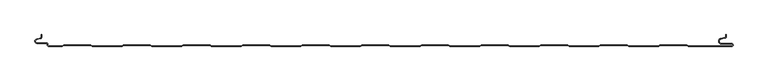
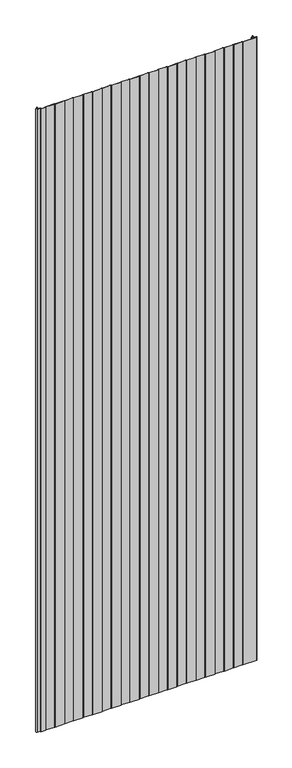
"""IFC4 building model written with IfcOpenShell, lengths in millimetres: plate geometry, PM1_Curtain-Panel_Perfil-Estándar : ACH_PM1_Panel-Acústico-Sectorización_150M."""

from ifc_helpers import new_model, si_unit, frame, origin, place, context, project, spatial, polyline, circle_curve, source, transform, mapped, element, save
from ifc_brep_helpers import plane_surface, cylinder_surface, revolved_surface, advanced_brep


def plate_b681ec22(model_context):
    return source(origin(), model_context, "Body", "AdvancedBrep", [
        advanced_brep(
        [(-562.4, -150.0, 3500.0), (-539.3999999, -150.0, 3500.0), (-536.8019223, -148.5, 3500.0), (-492.0019247, -148.5, 3500.0), (-489.4038471, -150.0, 3500.0), (-439.3999999, -150.0, 3500.0), (-436.8019223, -148.5, 3500.0), (-392.0019247, -148.5, 3500.0), (-389.4038471, -150.0, 3500.0), (-339.3999999, -150.0, 3500.0), (-336.8019223, -148.5, 3500.0), (-292.0019247, -148.5, 3500.0), (-289.4038471, -150.0, 3500.0), (-239.3999999, -150.0, 3500.0), (-236.8019223, -148.5, 3500.0), (-192.0019247, -148.5, 3500.0), (-189.4038471, -150.0, 3500.0), (-139.3999999, -150.0, 3500.0), (-136.8019223, -148.5, 3500.0), (-92.0019247, -148.5, 3500.0), (-89.4038471, -150.0, 3500.0), (-39.3999999, -150.0, 3500.0), (-36.8019223, -148.5, 3500.0), (7.9980753, -148.5, 3500.0), (10.5961529, -150.0, 3500.0), (60.6000001, -150.0, 3500.0), (63.1980777, -148.5, 3500.0), (107.9980753, -148.5, 3500.0), (110.5961529, -150.0, 3500.0), (160.6000001, -150.0, 3500.0), (163.1980777, -148.5, 3500.0), (207.9980753, -148.5, 3500.0), (210.5961529, -150.0, 3500.0), (260.6000001, -150.0, 3500.0), (263.1980777, -148.5, 3500.0), (307.9980753, -148.5, 3500.0), (310.5961529, -150.0, 3500.0), (360.6000001, -150.0, 3500.0), (363.1980777, -148.5, 3500.0), (407.9980753, -148.5, 3500.0), (410.5961529, -150.0, 3500.0), (460.6000001, -150.0, 3500.0), (463.1980777, -148.5, 3500.0), (507.9980753, -148.5, 3500.0), (510.5961529, -150.0, 3500.0), (583.1, -150.0, 3500.0), (585.6, -147.5, 3500.0), (583.1, -145.0, 3500.0), (566.1, -145.0, 3500.0), (565.4054075, -137.060769, 3500.0), (571.8514851, -135.924152, 3500.0), (574.0, -133.363652, 3500.0), (574.0, -130.0, 3500.0), (573.2, -130.0, 3500.0), (573.2, -133.363652, 3500.0), (571.7125666, -135.136306, 3500.0), (565.266489, -136.2729229, 3500.0), (566.1, -145.8, 3500.0), (583.1, -145.8, 3500.0), (583.1, -149.2, 3500.0), (510.8105122, -149.2, 3500.0), (508.2124346, -147.7, 3500.0), (462.9837184, -147.7, 3500.0), (460.3856408, -149.2, 3500.0), (410.8105122, -149.2, 3500.0), (408.2124346, -147.7, 3500.0), (362.9837184, -147.7, 3500.0), (360.3856408, -149.2, 3500.0), (310.8105122, -149.2, 3500.0), (308.2124346, -147.7, 3500.0), (262.9837184, -147.7, 3500.0), (260.3856408, -149.2, 3500.0), (210.8105122, -149.2, 3500.0), (208.2124346, -147.7, 3500.0), (162.9837184, -147.7, 3500.0), (160.3856408, -149.2, 3500.0), (110.8105122, -149.2, 3500.0), (108.2124346, -147.7, 3500.0), (62.9837184, -147.7, 3500.0), (60.3856408, -149.2, 3500.0), (10.8105122, -149.2, 3500.0), (8.2124346, -147.7, 3500.0), (-37.0162816, -147.7, 3500.0), (-39.6143592, -149.2, 3500.0), (-89.1894878, -149.2, 3500.0), (-91.7875654, -147.7, 3500.0), (-137.0162816, -147.7, 3500.0), (-139.6143592, -149.2, 3500.0), (-189.1894878, -149.2, 3500.0), (-191.7875654, -147.7, 3500.0), (-237.0162816, -147.7, 3500.0), (-239.6143592, -149.2, 3500.0), (-289.1894878, -149.2, 3500.0), (-291.7875654, -147.7, 3500.0), (-337.0162816, -147.7, 3500.0), (-339.6143592, -149.2, 3500.0), (-389.1894878, -149.2, 3500.0), (-391.7875654, -147.7, 3500.0), (-437.0162816, -147.7, 3500.0), (-439.6143592, -149.2, 3500.0), (-489.1894878, -149.2, 3500.0), (-491.7875654, -147.7, 3500.0), (-537.0162816, -147.7, 3500.0), (-539.6143592, -149.2, 3500.0), (-562.4, -149.2, 3500.0), (-563.6, -148.0, 3500.0), (-563.6, -146.6, 3500.0), (-566.4, -143.8, 3500.0), (-581.9, -143.8, 3500.0), (-582.529863, -138.2717638, 3500.0), (-576.370137, -136.849679, 3500.0), (-574.2, -134.121443, 3500.0), (-574.2, -130.0, 3500.0), (-575.0, -130.0, 3500.0), (-575.0, -134.121443, 3500.0), (-576.5500978, -136.0701831, 3500.0), (-582.7098239, -137.492268, 3500.0), (-581.9, -144.6, 3500.0), (-566.4, -144.6, 3500.0), (-564.4, -146.6, 3500.0), (-564.4, -148.0, 3500.0), (-562.4, -150.0, 0.0), (-564.4, -148.0, 0.0), (-564.4, -146.6, 0.0), (-566.4, -144.6, 0.0), (-581.9, -144.6, 0.0), (-582.7098239, -137.4922678, 0.0), (-576.5500979, -136.070183, 0.0), (-575.0, -134.121443, 0.0), (-575.0, -130.0, 0.0), (-574.2, -130.0, 0.0), (-574.2, -134.121443, 0.0), (-576.370137, -136.8496792, 0.0), (-582.529863, -138.271764, 0.0), (-581.9, -143.8, 0.0), (-566.4, -143.8, 0.0), (-563.6, -146.6, 0.0), (-563.6, -148.0, 0.0), (-562.4, -149.2, 0.0), (-539.6143592, -149.2, 0.0), (-537.0162816, -147.7, 0.0), (-491.7875654, -147.7, 0.0), (-489.1894878, -149.2, 0.0), (-439.6143592, -149.2, 0.0), (-437.0162816, -147.7, 0.0), (-391.7875654, -147.7, 0.0), (-389.1894878, -149.2, 0.0), (-339.6143592, -149.2, 0.0), (-337.0162816, -147.7, 0.0), (-291.7875654, -147.7, 0.0), (-289.1894878, -149.2, 0.0), (-239.6143592, -149.2, 0.0), (-237.0162816, -147.7, 0.0), (-191.7875654, -147.7, 0.0), (-189.1894878, -149.2, 0.0), (-139.6143592, -149.2, 0.0), (-137.0162816, -147.7, 0.0), (-91.7875654, -147.7, 0.0), (-89.1894878, -149.2, 0.0), (-39.6143592, -149.2, 0.0), (-37.0162816, -147.7, 0.0), (8.2124346, -147.7, 0.0), (10.8105122, -149.2, 0.0), (60.3856408, -149.2, 0.0), (62.9837184, -147.7, 0.0), (108.2124346, -147.7, 0.0), (110.8105122, -149.2, 0.0), (160.3856408, -149.2, 0.0), (162.9837184, -147.7, 0.0), (208.2124346, -147.7, 0.0), (210.8105122, -149.2, 0.0), (260.3856408, -149.2, 0.0), (262.9837184, -147.7, 0.0), (308.2124346, -147.7, 0.0), (310.8105122, -149.2, 0.0), (360.3856408, -149.2, 0.0), (362.9837184, -147.7, 0.0), (408.2124346, -147.7, 0.0), (410.8105122, -149.2, 0.0), (460.3856408, -149.2, 0.0), (462.9837184, -147.7, 0.0), (508.2124346, -147.7, 0.0), (510.8105122, -149.2, 0.0), (583.1, -149.2, 0.0), (583.1, -145.8, 0.0), (566.1, -145.8, 0.0), (565.266489, -136.2729227, 0.0), (571.7125666, -135.1363058, 0.0), (573.2, -133.363652, 0.0), (573.2, -130.0, 0.0), (574.0, -130.0, 0.0), (574.0, -133.363652, 0.0), (571.8514851, -135.9241522, 0.0), (565.4054075, -137.0607691, 0.0), (566.1, -145.0, 0.0), (583.1, -145.0, 0.0), (585.6, -147.5, 0.0), (583.1, -150.0, 0.0), (510.5961529, -150.0, 0.0), (507.9980753, -148.5, 0.0), (463.1980777, -148.5, 0.0), (460.6000001, -150.0, 0.0), (410.5961529, -150.0, 0.0), (407.9980753, -148.5, 0.0), (363.1980777, -148.5, 0.0), (360.6000001, -150.0, 0.0), (310.5961529, -150.0, 0.0), (307.9980753, -148.5, 0.0), (263.1980777, -148.5, 0.0), (260.6000001, -150.0, 0.0), (210.5961529, -150.0, 0.0), (207.9980753, -148.5, 0.0), (163.1980777, -148.5, 0.0), (160.6000001, -150.0, 0.0), (110.5961529, -150.0, 0.0), (107.9980753, -148.5, 0.0), (63.1980777, -148.5, 0.0), (60.6000001, -150.0, 0.0), (10.5961529, -150.0, 0.0), (7.9980753, -148.5, 0.0), (-36.8019223, -148.5, 0.0), (-39.3999999, -150.0, 0.0), (-89.4038471, -150.0, 0.0), (-92.0019247, -148.5, 0.0), (-136.8019223, -148.5, 0.0), (-139.3999999, -150.0, 0.0), (-189.4038471, -150.0, 0.0), (-192.0019247, -148.5, 0.0), (-236.8019223, -148.5, 0.0), (-239.3999999, -150.0, 0.0), (-289.4038471, -150.0, 0.0), (-292.0019247, -148.5, 0.0), (-336.8019223, -148.5, 0.0), (-339.3999999, -150.0, 0.0), (-389.4038471, -150.0, 0.0), (-392.0019247, -148.5, 0.0), (-436.8019223, -148.5, 0.0), (-439.3999999, -150.0, 0.0), (-489.4038471, -150.0, 0.0), (-492.0019247, -148.5, 0.0), (-536.8019223, -148.5, 0.0), (-539.3999999, -150.0, 0.0)],
        [
            (0, 1),
            (1, 2),
            (2, 3),
            (3, 4),
            (4, 5),
            (5, 6),
            (6, 7),
            (7, 8),
            (8, 9),
            (9, 10),
            (10, 11),
            (11, 12),
            (12, 13),
            (13, 14),
            (14, 15),
            (15, 16),
            (16, 17),
            (17, 18),
            (18, 19),
            (19, 20),
            (20, 21),
            (21, 22),
            (22, 23),
            (23, 24),
            (24, 25),
            (25, 26),
            (26, 27),
            (27, 28),
            (28, 29),
            (29, 30),
            (30, 31),
            (31, 32),
            (32, 33),
            (33, 34),
            (34, 35),
            (35, 36),
            (36, 37),
            (37, 38),
            (38, 39),
            (39, 40),
            (40, 41),
            (41, 42),
            (42, 43),
            (43, 44),
            (44, 45),
            (45, 46, circle_curve(frame((583.1, -147.5, 3500.0), z_axis=(0.0, 0.0, 1.0), x_axis=(1.0, 0.0, 0.0)), 2.5)),
            (46, 47, circle_curve(frame((583.1, -147.5, 3500.0), z_axis=(0.0, 0.0, 1.0), x_axis=(1.0, 0.0, 0.0)), 2.5)),
            (47, 48),
            (48, 49, circle_curve(frame((566.1, -141.0, 3500.0), z_axis=(0.0, 0.0, -1.0), x_axis=(1.0, 0.0, 0.0)), 4.0)),
            (49, 50),
            (50, 51, circle_curve(frame((571.4, -133.363652, 3500.0), z_axis=(0.0, 0.0, 1.0), x_axis=(1.0, 0.0, 0.0)), 2.6)),
            (51, 52),
            (52, 53),
            (53, 54),
            (54, 55, circle_curve(frame((571.4, -133.363652, 3500.0), z_axis=(0.0, 0.0, -1.0), x_axis=(1.0, 0.0, 0.0)), 1.8)),
            (55, 56),
            (56, 57, circle_curve(frame((566.1, -141.0, 3500.0), z_axis=(0.0, 0.0, 1.0), x_axis=(1.0, 0.0, 0.0)), 4.8)),
            (57, 58),
            (58, 59, circle_curve(frame((583.1, -147.5, 3500.0), z_axis=(0.0, 0.0, -1.0), x_axis=(1.0, 0.0, 0.0)), 1.7)),
            (59, 60),
            (60, 61),
            (61, 62),
            (62, 63),
            (63, 64),
            (64, 65),
            (65, 66),
            (66, 67),
            (67, 68),
            (68, 69),
            (69, 70),
            (70, 71),
            (71, 72),
            (72, 73),
            (73, 74),
            (74, 75),
            (75, 76),
            (76, 77),
            (77, 78),
            (78, 79),
            (79, 80),
            (80, 81),
            (81, 82),
            (82, 83),
            (83, 84),
            (84, 85),
            (85, 86),
            (86, 87),
            (87, 88),
            (88, 89),
            (89, 90),
            (90, 91),
            (91, 92),
            (92, 93),
            (93, 94),
            (94, 95),
            (95, 96),
            (96, 97),
            (97, 98),
            (98, 99),
            (99, 100),
            (100, 101),
            (101, 102),
            (102, 103),
            (103, 104),
            (104, 105, circle_curve(frame((-562.4, -148.0, 3500.0), z_axis=(0.0, 0.0, -1.0), x_axis=(1.0, 0.0, 0.0)), 1.2)),
            (105, 106),
            (106, 107, circle_curve(frame((-566.4, -146.6, 3500.0), z_axis=(0.0, 0.0, 1.0), x_axis=(1.0, 0.0, 0.0)), 2.8)),
            (107, 108),
            (108, 109, circle_curve(frame((-581.9, -141.0, 3500.0), z_axis=(0.0, 0.0, -1.0), x_axis=(1.0, 0.0, 0.0)), 2.8)),
            (109, 110),
            (110, 111, circle_curve(frame((-577.0, -134.121443, 3500.0), z_axis=(0.0, 0.0, 1.0), x_axis=(1.0, 0.0, 0.0)), 2.8)),
            (111, 112),
            (112, 113),
            (113, 114),
            (114, 115, circle_curve(frame((-577.0, -134.121443, 3500.0), z_axis=(0.0, 0.0, -1.0), x_axis=(1.0, 0.0, 0.0)), 2.0)),
            (115, 116),
            (116, 117, circle_curve(frame((-581.9, -141.0, 3500.0), z_axis=(0.0, 0.0, 1.0), x_axis=(1.0, 0.0, 0.0)), 3.6)),
            (117, 118),
            (118, 119, circle_curve(frame((-566.4, -146.6, 3500.0), z_axis=(0.0, 0.0, -1.0), x_axis=(1.0, 0.0, 0.0)), 2.0)),
            (119, 120),
            (120, 0, circle_curve(frame((-562.4, -148.0, 3500.0), z_axis=(0.0, 0.0, 1.0), x_axis=(1.0, 0.0, 0.0)), 2.0)),
            (121, 122, circle_curve(frame((-562.4, -148.0, 0.0), z_axis=(0.0, 0.0, -1.0), x_axis=(1.0, 0.0, 0.0)), 2.0)),
            (122, 123),
            (123, 124, circle_curve(frame((-566.4, -146.6, 0.0), z_axis=(0.0, 0.0, 1.0), x_axis=(1.0, 0.0, 0.0)), 2.0)),
            (124, 125),
            (125, 126, circle_curve(frame((-581.9, -141.0, 0.0), z_axis=(0.0, 0.0, -1.0), x_axis=(1.0, 0.0, 0.0)), 3.6)),
            (126, 127),
            (127, 128, circle_curve(frame((-577.0, -134.121443, 0.0), z_axis=(0.0, 0.0, 1.0), x_axis=(1.0, 0.0, 0.0)), 2.0)),
            (128, 129),
            (129, 130),
            (130, 131),
            (131, 132, circle_curve(frame((-577.0, -134.121443, 0.0), z_axis=(0.0, 0.0, -1.0), x_axis=(1.0, 0.0, 0.0)), 2.8)),
            (132, 133),
            (133, 134, circle_curve(frame((-581.9, -141.0, 0.0), z_axis=(0.0, 0.0, 1.0), x_axis=(1.0, 0.0, 0.0)), 2.8)),
            (134, 135),
            (135, 136, circle_curve(frame((-566.4, -146.6, 0.0), z_axis=(0.0, 0.0, -1.0), x_axis=(1.0, 0.0, 0.0)), 2.8)),
            (136, 137),
            (137, 138, circle_curve(frame((-562.4, -148.0, 0.0), z_axis=(0.0, 0.0, 1.0), x_axis=(1.0, 0.0, 0.0)), 1.2)),
            (138, 139),
            (139, 140),
            (140, 141),
            (141, 142),
            (142, 143),
            (143, 144),
            (144, 145),
            (145, 146),
            (146, 147),
            (147, 148),
            (148, 149),
            (149, 150),
            (150, 151),
            (151, 152),
            (152, 153),
            (153, 154),
            (154, 155),
            (155, 156),
            (156, 157),
            (157, 158),
            (158, 159),
            (159, 160),
            (160, 161),
            (161, 162),
            (162, 163),
            (163, 164),
            (164, 165),
            (165, 166),
            (166, 167),
            (167, 168),
            (168, 169),
            (169, 170),
            (170, 171),
            (171, 172),
            (172, 173),
            (173, 174),
            (174, 175),
            (175, 176),
            (176, 177),
            (177, 178),
            (178, 179),
            (179, 180),
            (180, 181),
            (181, 182),
            (182, 183),
            (183, 184, circle_curve(frame((583.1, -147.5, 0.0), z_axis=(0.0, 0.0, 1.0), x_axis=(1.0, 0.0, 0.0)), 1.7)),
            (184, 185),
            (185, 186, circle_curve(frame((566.1, -141.0, 0.0), z_axis=(0.0, 0.0, -1.0), x_axis=(1.0, 0.0, 0.0)), 4.8)),
            (186, 187),
            (187, 188, circle_curve(frame((571.4, -133.363652, 0.0), z_axis=(0.0, 0.0, 1.0), x_axis=(1.0, 0.0, 0.0)), 1.8)),
            (188, 189),
            (189, 190),
            (190, 191),
            (191, 192, circle_curve(frame((571.4, -133.363652, 0.0), z_axis=(0.0, 0.0, -1.0), x_axis=(1.0, 0.0, 0.0)), 2.6)),
            (192, 193),
            (193, 194, circle_curve(frame((566.1, -141.0, 0.0), z_axis=(0.0, 0.0, 1.0), x_axis=(1.0, 0.0, 0.0)), 4.0)),
            (194, 195),
            (195, 196, circle_curve(frame((583.1, -147.5, 0.0), z_axis=(0.0, 0.0, -1.0), x_axis=(1.0, 0.0, 0.0)), 2.5)),
            (196, 197, circle_curve(frame((583.1, -147.5, 0.0), z_axis=(0.0, 0.0, -1.0), x_axis=(1.0, 0.0, 0.0)), 2.5)),
            (197, 198),
            (198, 199),
            (199, 200),
            (200, 201),
            (201, 202),
            (202, 203),
            (203, 204),
            (204, 205),
            (205, 206),
            (206, 207),
            (207, 208),
            (208, 209),
            (209, 210),
            (210, 211),
            (211, 212),
            (212, 213),
            (213, 214),
            (214, 215),
            (215, 216),
            (216, 217),
            (217, 218),
            (218, 219),
            (219, 220),
            (220, 221),
            (221, 222),
            (222, 223),
            (223, 224),
            (224, 225),
            (225, 226),
            (226, 227),
            (227, 228),
            (228, 229),
            (229, 230),
            (230, 231),
            (231, 232),
            (232, 233),
            (233, 234),
            (234, 235),
            (235, 236),
            (236, 237),
            (237, 238),
            (238, 239),
            (239, 240),
            (240, 241),
            (241, 121),
            (0, 121),
            (241, 1),
            (240, 2),
            (239, 3),
            (238, 4),
            (237, 5),
            (236, 6),
            (235, 7),
            (234, 8),
            (233, 9),
            (232, 10),
            (231, 11),
            (230, 12),
            (229, 13),
            (228, 14),
            (227, 15),
            (226, 16),
            (225, 17),
            (224, 18),
            (223, 19),
            (222, 20),
            (221, 21),
            (220, 22),
            (219, 23),
            (218, 24),
            (217, 25),
            (216, 26),
            (215, 27),
            (214, 28),
            (213, 29),
            (212, 30),
            (211, 31),
            (210, 32),
            (209, 33),
            (208, 34),
            (207, 35),
            (206, 36),
            (205, 37),
            (204, 38),
            (203, 39),
            (202, 40),
            (201, 41),
            (200, 42),
            (199, 43),
            (198, 44),
            (197, 45),
            (195, 47),
            (194, 48),
            (193, 49),
            (192, 50),
            (191, 51),
            (190, 52),
            (189, 53),
            (188, 54),
            (187, 55),
            (186, 56),
            (185, 57),
            (184, 58),
            (183, 59),
            (182, 60),
            (181, 61),
            (180, 62),
            (179, 63),
            (178, 64),
            (177, 65),
            (176, 66),
            (175, 67),
            (174, 68),
            (173, 69),
            (172, 70),
            (171, 71),
            (170, 72),
            (169, 73),
            (168, 74),
            (167, 75),
            (166, 76),
            (165, 77),
            (164, 78),
            (163, 79),
            (162, 80),
            (161, 81),
            (160, 82),
            (159, 83),
            (158, 84),
            (157, 85),
            (156, 86),
            (155, 87),
            (154, 88),
            (153, 89),
            (152, 90),
            (151, 91),
            (150, 92),
            (149, 93),
            (148, 94),
            (147, 95),
            (146, 96),
            (145, 97),
            (144, 98),
            (143, 99),
            (142, 100),
            (141, 101),
            (140, 102),
            (139, 103),
            (138, 104),
            (137, 105),
            (136, 106),
            (135, 107),
            (134, 108),
            (133, 109),
            (132, 110),
            (131, 111),
            (130, 112),
            (129, 113),
            (128, 114),
            (127, 115),
            (126, 116),
            (125, 117),
            (124, 118),
            (123, 119),
            (122, 120),
        ],
        [
            plane_surface(frame((-575.0, -150.0, 3500.0), z_axis=(0.0, 0.0, 1.0), x_axis=(0.0, 1.0, 0.0))),
            plane_surface(frame((-575.0, -150.0, 0.0), z_axis=(0.0, 0.0, -1.0), x_axis=(0.0, 1.0, 0.0))),
            plane_surface(frame((-562.4, -150.0, 3500.0), z_axis=(0.0, -1.0, 0.0), x_axis=(0.0, 0.0, -1.0))),
            plane_surface(frame((-539.3999999, -150.0, 3500.0), z_axis=(0.49999979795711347, -0.8660255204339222, 0.0), x_axis=(0.0, 0.0, -1.0))),
            plane_surface(frame((-536.8019223, -148.5, 3500.0), z_axis=(0.0, -1.0, 0.0), x_axis=(0.0, 0.0, -1.0))),
            plane_surface(frame((-492.0019247, -148.5, 3500.0), z_axis=(-0.49999979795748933, -0.8660255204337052, 0.0), x_axis=(0.0, 0.0, -1.0))),
            plane_surface(frame((-489.4038471, -150.0, 3500.0), z_axis=(0.0, -1.0, 0.0), x_axis=(0.0, 0.0, -1.0))),
            plane_surface(frame((-439.3999999, -150.0, 3500.0), z_axis=(0.49999979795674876, -0.8660255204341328, 0.0), x_axis=(0.0, 0.0, -1.0))),
            plane_surface(frame((-436.8019223, -148.5, 3500.0), z_axis=(0.0, -1.0, 0.0), x_axis=(0.0, 0.0, -1.0))),
            plane_surface(frame((-392.0019247, -148.5, 3500.0), z_axis=(-0.4999997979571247, -0.8660255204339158, 0.0), x_axis=(0.0, 0.0, -1.0))),
            plane_surface(frame((-389.4038471, -150.0, 3500.0), z_axis=(0.0, -1.0, 0.0), x_axis=(0.0, 0.0, -1.0))),
            plane_surface(frame((-339.3999999, -150.0, 3500.0), z_axis=(0.49999979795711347, -0.8660255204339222, 0.0), x_axis=(0.0, 0.0, -1.0))),
            plane_surface(frame((-336.8019223, -148.5, 3500.0), z_axis=(0.0, -1.0, 0.0), x_axis=(0.0, 0.0, -1.0))),
            plane_surface(frame((-292.0019247, -148.5, 3500.0), z_axis=(-0.4999997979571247, -0.8660255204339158, 0.0), x_axis=(0.0, 0.0, -1.0))),
            plane_surface(frame((-289.4038471, -150.0, 3500.0), z_axis=(0.0, -1.0, 0.0), x_axis=(0.0, 0.0, -1.0))),
            plane_surface(frame((-239.3999999, -150.0, 3500.0), z_axis=(0.49999979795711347, -0.8660255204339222, 0.0), x_axis=(0.0, 0.0, -1.0))),
            plane_surface(frame((-236.8019223, -148.5, 3500.0), z_axis=(0.0, -1.0, 0.0), x_axis=(0.0, 0.0, -1.0))),
            plane_surface(frame((-192.0019247, -148.5, 3500.0), z_axis=(-0.49999979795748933, -0.8660255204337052, 0.0), x_axis=(0.0, 0.0, -1.0))),
            plane_surface(frame((-189.4038471, -150.0, 3500.0), z_axis=(0.0, -1.0, 0.0), x_axis=(0.0, 0.0, -1.0))),
            plane_surface(frame((-139.3999999, -150.0, 3500.0), z_axis=(0.49999979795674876, -0.8660255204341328, 0.0), x_axis=(0.0, 0.0, -1.0))),
            plane_surface(frame((-136.8019223, -148.5, 3500.0), z_axis=(0.0, -1.0, 0.0), x_axis=(0.0, 0.0, -1.0))),
            plane_surface(frame((-92.0019247, -148.5, 3500.0), z_axis=(-0.4999997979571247, -0.8660255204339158, 0.0), x_axis=(0.0, 0.0, -1.0))),
            plane_surface(frame((-89.4038471, -150.0, 3500.0), z_axis=(0.0, -1.0, 0.0), x_axis=(0.0, 0.0, -1.0))),
            plane_surface(frame((-39.3999999, -150.0, 3500.0), z_axis=(0.49999979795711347, -0.8660255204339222, 0.0), x_axis=(0.0, 0.0, -1.0))),
            plane_surface(frame((-36.8019223, -148.5, 3500.0), z_axis=(0.0, -1.0, 0.0), x_axis=(0.0, 0.0, -1.0))),
            plane_surface(frame((7.9980753, -148.5, 3500.0), z_axis=(-0.4999997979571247, -0.8660255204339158, 0.0), x_axis=(0.0, 0.0, -1.0))),
            plane_surface(frame((10.5961529, -150.0, 3500.0), z_axis=(0.0, -1.0, 0.0), x_axis=(0.0, 0.0, -1.0))),
            plane_surface(frame((60.6000001, -150.0, 3500.0), z_axis=(0.49999979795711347, -0.8660255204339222, 0.0), x_axis=(0.0, 0.0, -1.0))),
            plane_surface(frame((63.1980777, -148.5, 3500.0), z_axis=(0.0, -1.0, 0.0), x_axis=(0.0, 0.0, -1.0))),
            plane_surface(frame((107.9980753, -148.5, 3500.0), z_axis=(-0.49999979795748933, -0.8660255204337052, 0.0), x_axis=(0.0, 0.0, -1.0))),
            plane_surface(frame((110.5961529, -150.0, 3500.0), z_axis=(0.0, -1.0, 0.0), x_axis=(0.0, 0.0, -1.0))),
            plane_surface(frame((160.6000001, -150.0, 3500.0), z_axis=(0.49999979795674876, -0.8660255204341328, 0.0), x_axis=(0.0, 0.0, -1.0))),
            plane_surface(frame((163.1980777, -148.5, 3500.0), z_axis=(0.0, -1.0, 0.0), x_axis=(0.0, 0.0, -1.0))),
            plane_surface(frame((207.9980753, -148.5, 3500.0), z_axis=(-0.4999997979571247, -0.8660255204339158, 0.0), x_axis=(0.0, 0.0, -1.0))),
            plane_surface(frame((210.5961529, -150.0, 3500.0), z_axis=(0.0, -1.0, 0.0), x_axis=(0.0, 0.0, -1.0))),
            plane_surface(frame((260.6000001, -150.0, 3500.0), z_axis=(0.49999979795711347, -0.8660255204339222, 0.0), x_axis=(0.0, 0.0, -1.0))),
            plane_surface(frame((263.1980777, -148.5, 3500.0), z_axis=(0.0, -1.0, 0.0), x_axis=(0.0, 0.0, -1.0))),
            plane_surface(frame((307.9980753, -148.5, 3500.0), z_axis=(-0.4999997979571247, -0.8660255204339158, 0.0), x_axis=(0.0, 0.0, -1.0))),
            plane_surface(frame((310.5961529, -150.0, 3500.0), z_axis=(0.0, -1.0, 0.0), x_axis=(0.0, 0.0, -1.0))),
            plane_surface(frame((360.6000001, -150.0, 3500.0), z_axis=(0.49999979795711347, -0.8660255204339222, 0.0), x_axis=(0.0, 0.0, -1.0))),
            plane_surface(frame((363.1980777, -148.5, 3500.0), z_axis=(0.0, -1.0, 0.0), x_axis=(0.0, 0.0, -1.0))),
            plane_surface(frame((407.9980753, -148.5, 3500.0), z_axis=(-0.49999979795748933, -0.8660255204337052, 0.0), x_axis=(0.0, 0.0, -1.0))),
            plane_surface(frame((410.5961529, -150.0, 3500.0), z_axis=(0.0, -1.0, 0.0), x_axis=(0.0, 0.0, -1.0))),
            plane_surface(frame((460.6000001, -150.0, 3500.0), z_axis=(0.49999979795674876, -0.8660255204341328, 0.0), x_axis=(0.0, 0.0, -1.0))),
            plane_surface(frame((463.1980777, -148.5, 3500.0), z_axis=(0.0, -1.0, 0.0), x_axis=(0.0, 0.0, -1.0))),
            plane_surface(frame((507.9980753, -148.5, 3500.0), z_axis=(-0.4999997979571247, -0.8660255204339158, 0.0), x_axis=(0.0, 0.0, -1.0))),
            plane_surface(frame((560.890897, -150.0, 3500.0), z_axis=(0.0, -1.0, 0.0), x_axis=(0.0, 0.0, -1.0))),
            cylinder_surface(frame((583.1, -147.5, 3500.0), z_axis=(0.0, 0.0, 1.0), x_axis=(1.0, 0.0, 0.0)), 2.5),
            plane_surface(frame((583.1, -145.0, 3500.0), z_axis=(0.0, 1.0, 0.0), x_axis=(0.0, 0.0, -1.0))),
            revolved_surface(polyline([(570.1, -141.0, 0.0), (570.1, -141.0, 3500.0)]), (566.1, -141.0, 3500.0), (0.0, 0.0, -1.0)),
            plane_surface(frame((565.4054075, -137.0607691, 3500.0), z_axis=(0.17364813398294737, -0.9848077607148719, 0.0), x_axis=(0.0, 0.0, -1.0))),
            cylinder_surface(frame((571.4, -133.363652, 3500.0), z_axis=(0.0, 0.0, 1.0), x_axis=(1.0, 0.0, 0.0)), 2.6),
            plane_surface(frame((574.0, -133.363652, 3500.0), z_axis=(1.0, 0.0, 0.0), x_axis=(0.0, 0.0, -1.0))),
            plane_surface(frame((574.0, -130.0, 3500.0), z_axis=(0.0, 1.0, 0.0), x_axis=(0.0, 0.0, -1.0))),
            plane_surface(frame((573.2, -130.0, 3500.0), z_axis=(-1.0, 0.0, 0.0), x_axis=(0.0, 0.0, -1.0))),
            revolved_surface(polyline([(573.1999999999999, -133.363652, 0.0), (573.1999999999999, -133.363652, 3500.0)]), (571.4, -133.363652, 3500.0), (0.0, 0.0, -1.0)),
            plane_surface(frame((571.7125666, -135.1363058, 3500.0), z_axis=(-0.17364813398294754, 0.9848077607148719, 0.0), x_axis=(0.0, 0.0, -1.0))),
            cylinder_surface(frame((566.1, -141.0, 3500.0), z_axis=(0.0, 0.0, 1.0), x_axis=(1.0, 0.0, 0.0)), 4.8),
            plane_surface(frame((566.1, -145.8, 3500.0), z_axis=(0.0, -1.0, 0.0), x_axis=(0.0, 0.0, -1.0))),
            revolved_surface(polyline([(584.8000000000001, -147.5, 0.0), (584.8000000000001, -147.5, 3500.0)]), (583.1, -147.5, 3500.0), (0.0, 0.0, -1.0)),
            plane_surface(frame((560.890897, -149.2, 3500.0), z_axis=(0.0, 1.0, 0.0), x_axis=(0.0, 0.0, -1.0))),
            plane_surface(frame((510.8105122, -149.2, 3500.0), z_axis=(0.49999979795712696, 0.8660255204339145, 0.0), x_axis=(0.0, 0.0, -1.0))),
            plane_surface(frame((508.2124346, -147.7, 3500.0), z_axis=(0.0, 1.0, 0.0), x_axis=(0.0, 0.0, -1.0))),
            plane_surface(frame((462.9837184, -147.7, 3500.0), z_axis=(-0.4999997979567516, 0.8660255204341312, 0.0), x_axis=(0.0, 0.0, -1.0))),
            plane_surface(frame((460.3856408, -149.2, 3500.0), z_axis=(0.0, 1.0, 0.0), x_axis=(0.0, 0.0, -1.0))),
            plane_surface(frame((410.8105122, -149.2, 3500.0), z_axis=(0.4999997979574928, 0.8660255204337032, 0.0), x_axis=(0.0, 0.0, -1.0))),
            plane_surface(frame((408.2124346, -147.7, 3500.0), z_axis=(0.0, 1.0, 0.0), x_axis=(0.0, 0.0, -1.0))),
            plane_surface(frame((362.9837184, -147.7, 3500.0), z_axis=(-0.49999979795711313, 0.8660255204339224, 0.0), x_axis=(0.0, 0.0, -1.0))),
            plane_surface(frame((360.3856408, -149.2, 3500.0), z_axis=(0.0, 1.0, 0.0), x_axis=(0.0, 0.0, -1.0))),
            plane_surface(frame((310.8105122, -149.2, 3500.0), z_axis=(0.4999997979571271, 0.8660255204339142, 0.0), x_axis=(0.0, 0.0, -1.0))),
            plane_surface(frame((308.2124346, -147.7, 3500.0), z_axis=(0.0, 1.0, 0.0), x_axis=(0.0, 0.0, -1.0))),
            plane_surface(frame((262.9837184, -147.7, 3500.0), z_axis=(-0.49999979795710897, 0.8660255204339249, 0.0), x_axis=(0.0, 0.0, -1.0))),
            plane_surface(frame((260.3856408, -149.2, 3500.0), z_axis=(0.0, 1.0, 0.0), x_axis=(0.0, 0.0, -1.0))),
            plane_surface(frame((210.8105122, -149.2, 3500.0), z_axis=(0.4999997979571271, 0.8660255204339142, 0.0), x_axis=(0.0, 0.0, -1.0))),
            plane_surface(frame((208.2124346, -147.7, 3500.0), z_axis=(0.0, 1.0, 0.0), x_axis=(0.0, 0.0, -1.0))),
            plane_surface(frame((162.9837184, -147.7, 3500.0), z_axis=(-0.4999997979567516, 0.8660255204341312, 0.0), x_axis=(0.0, 0.0, -1.0))),
            plane_surface(frame((160.3856408, -149.2, 3500.0), z_axis=(0.0, 1.0, 0.0), x_axis=(0.0, 0.0, -1.0))),
            plane_surface(frame((110.8105122, -149.2, 3500.0), z_axis=(0.49999979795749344, 0.8660255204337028, 0.0), x_axis=(0.0, 0.0, -1.0))),
            plane_surface(frame((108.2124346, -147.7, 3500.0), z_axis=(0.0, 1.0, 0.0), x_axis=(0.0, 0.0, -1.0))),
            plane_surface(frame((62.9837184, -147.7, 3500.0), z_axis=(-0.49999979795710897, 0.8660255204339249, 0.0), x_axis=(0.0, 0.0, -1.0))),
            plane_surface(frame((60.3856408, -149.2, 3500.0), z_axis=(0.0, 1.0, 0.0), x_axis=(0.0, 0.0, -1.0))),
            plane_surface(frame((10.8105122, -149.2, 3500.0), z_axis=(0.4999997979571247, 0.8660255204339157, 0.0), x_axis=(0.0, 0.0, -1.0))),
            plane_surface(frame((8.2124346, -147.7, 3500.0), z_axis=(0.0, 1.0, 0.0), x_axis=(0.0, 0.0, -1.0))),
            plane_surface(frame((-37.0162816, -147.7, 3500.0), z_axis=(-0.49999979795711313, 0.8660255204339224, 0.0), x_axis=(0.0, 0.0, -1.0))),
            plane_surface(frame((-39.6143592, -149.2, 3500.0), z_axis=(0.0, 1.0, 0.0), x_axis=(0.0, 0.0, -1.0))),
            plane_surface(frame((-89.1894878, -149.2, 3500.0), z_axis=(0.4999997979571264, 0.8660255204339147, 0.0), x_axis=(0.0, 0.0, -1.0))),
            plane_surface(frame((-91.7875654, -147.7, 3500.0), z_axis=(0.0, 1.0, 0.0), x_axis=(0.0, 0.0, -1.0))),
            plane_surface(frame((-137.0162816, -147.7, 3500.0), z_axis=(-0.49999979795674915, 0.8660255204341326, 0.0), x_axis=(0.0, 0.0, -1.0))),
            plane_surface(frame((-139.6143592, -149.2, 3500.0), z_axis=(0.0, 1.0, 0.0), x_axis=(0.0, 0.0, -1.0))),
            plane_surface(frame((-189.1894878, -149.2, 3500.0), z_axis=(0.49999979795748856, 0.8660255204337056, 0.0), x_axis=(0.0, 0.0, -1.0))),
            plane_surface(frame((-191.7875654, -147.7, 3500.0), z_axis=(0.0, 1.0, 0.0), x_axis=(0.0, 0.0, -1.0))),
            plane_surface(frame((-237.0162816, -147.7, 3500.0), z_axis=(-0.4999997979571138, 0.866025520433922, 0.0), x_axis=(0.0, 0.0, -1.0))),
            plane_surface(frame((-239.6143592, -149.2, 3500.0), z_axis=(0.0, 1.0, 0.0), x_axis=(0.0, 0.0, -1.0))),
            plane_surface(frame((-289.1894878, -149.2, 3500.0), z_axis=(0.49999979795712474, 0.8660255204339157, 0.0), x_axis=(0.0, 0.0, -1.0))),
            plane_surface(frame((-291.7875654, -147.7, 3500.0), z_axis=(0.0, 1.0, 0.0), x_axis=(0.0, 0.0, -1.0))),
            plane_surface(frame((-337.0162816, -147.7, 3500.0), z_axis=(-0.49999979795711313, 0.8660255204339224, 0.0), x_axis=(0.0, 0.0, -1.0))),
            plane_surface(frame((-339.6143592, -149.2, 3500.0), z_axis=(0.0, 1.0, 0.0), x_axis=(0.0, 0.0, -1.0))),
            plane_surface(frame((-389.1894878, -149.2, 3500.0), z_axis=(0.49999979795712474, 0.8660255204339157, 0.0), x_axis=(0.0, 0.0, -1.0))),
            plane_surface(frame((-391.7875654, -147.7, 3500.0), z_axis=(0.0, 1.0, 0.0), x_axis=(0.0, 0.0, -1.0))),
            plane_surface(frame((-437.0162816, -147.7, 3500.0), z_axis=(-0.49999979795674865, 0.8660255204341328, 0.0), x_axis=(0.0, 0.0, -1.0))),
            plane_surface(frame((-439.6143592, -149.2, 3500.0), z_axis=(0.0, 1.0, 0.0), x_axis=(0.0, 0.0, -1.0))),
            plane_surface(frame((-489.1894878, -149.2, 3500.0), z_axis=(0.49999979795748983, 0.866025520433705, 0.0), x_axis=(0.0, 0.0, -1.0))),
            plane_surface(frame((-491.7875654, -147.7, 3500.0), z_axis=(0.0, 1.0, 0.0), x_axis=(0.0, 0.0, -1.0))),
            plane_surface(frame((-537.0162816, -147.7, 3500.0), z_axis=(-0.49999979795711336, 0.8660255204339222, 0.0), x_axis=(0.0, 0.0, -1.0))),
            plane_surface(frame((-539.6143592, -149.2, 3500.0), z_axis=(0.0, 1.0, 0.0), x_axis=(0.0, 0.0, -1.0))),
            revolved_surface(polyline([(-561.1999999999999, -148.0, 0.0), (-561.1999999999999, -148.0, 3500.0)]), (-562.4, -148.0, 3500.0), (0.0, 0.0, -1.0)),
            plane_surface(frame((-563.6, -148.0, 3500.0), z_axis=(1.0, 0.0, 0.0), x_axis=(0.0, 0.0, -1.0))),
            cylinder_surface(frame((-566.4, -146.6, 3500.0), z_axis=(0.0, 0.0, 1.0), x_axis=(1.0, 0.0, 0.0)), 2.8),
            plane_surface(frame((-566.4, -143.8, 3500.0), z_axis=(0.0, 1.0, 0.0), x_axis=(0.0, 0.0, -1.0))),
            revolved_surface(polyline([(-579.1, -141.0, 0.0), (-579.1, -141.0, 3500.0)]), (-581.9, -141.0, 3500.0), (0.0, 0.0, -1.0)),
            plane_surface(frame((-582.529863, -138.271764, 3500.0), z_axis=(0.2249510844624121, -0.9743700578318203, 0.0), x_axis=(0.0, 0.0, -1.0))),
            cylinder_surface(frame((-577.0, -134.121443, 3500.0), z_axis=(0.0, 0.0, 1.0), x_axis=(1.0, 0.0, 0.0)), 2.8),
            plane_surface(frame((-574.2, -134.121443, 3500.0), z_axis=(1.0, 0.0, 0.0), x_axis=(0.0, 0.0, -1.0))),
            plane_surface(frame((-574.2, -130.0, 3500.0), z_axis=(0.0, 1.0, 0.0), x_axis=(0.0, 0.0, -1.0))),
            plane_surface(frame((-575.0, -130.0, 3500.0), z_axis=(-1.0, 0.0, 0.0), x_axis=(0.0, 0.0, -1.0))),
            revolved_surface(polyline([(-575.0, -134.121443, 0.0), (-575.0, -134.121443, 3500.0)]), (-577.0, -134.121443, 3500.0), (0.0, 0.0, -1.0)),
            plane_surface(frame((-576.5500979, -136.070183, 3500.0), z_axis=(-0.22495108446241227, 0.9743700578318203, 0.0), x_axis=(0.0, 0.0, -1.0))),
            cylinder_surface(frame((-581.9, -141.0, 3500.0), z_axis=(0.0, 0.0, 1.0), x_axis=(1.0, 0.0, 0.0)), 3.6),
            plane_surface(frame((-581.9, -144.6, 3500.0), z_axis=(0.0, -1.0, 0.0), x_axis=(0.0, 0.0, -1.0))),
            revolved_surface(polyline([(-564.4, -146.6, 0.0), (-564.4, -146.6, 3500.0)]), (-566.4, -146.6, 3500.0), (0.0, 0.0, -1.0)),
            plane_surface(frame((-564.4, -146.6, 3500.0), z_axis=(-1.0, 0.0, 0.0), x_axis=(0.0, 0.0, -1.0))),
            cylinder_surface(frame((-562.4, -148.0, 3500.0), z_axis=(0.0, 0.0, 1.0), x_axis=(1.0, 0.0, 0.0)), 2.0),
        ],
        [
            (0, [[1, 2, 3, 4, 5, 6, 7, 8, 9, 10, 11, 12, 13, 14, 15, 16, 17, 18, 19, 20, 21, 22, 23, 24, 25, 26, 27, 28, 29, 30, 31, 32, 33, 34, 35, 36, 37, 38, 39, 40, 41, 42, 43, 44, 45, 46, 47, 48, 49, 50, 51, 52, 53, 54, 55, 56, 57, 58, 59, 60, 61, 62, 63, 64, 65, 66, 67, 68, 69, 70, 71, 72, 73, 74, 75, 76, 77, 78, 79, 80, 81, 82, 83, 84, 85, 86, 87, 88, 89, 90, 91, 92, 93, 94, 95, 96, 97, 98, 99, 100, 101, 102, 103, 104, 105, 106, 107, 108, 109, 110, 111, 112, 113, 114, 115, 116, 117, 118, 119, 120, 121]]),
            (1, [[122, 123, 124, 125, 126, 127, 128, 129, 130, 131, 132, 133, 134, 135, 136, 137, 138, 139, 140, 141, 142, 143, 144, 145, 146, 147, 148, 149, 150, 151, 152, 153, 154, 155, 156, 157, 158, 159, 160, 161, 162, 163, 164, 165, 166, 167, 168, 169, 170, 171, 172, 173, 174, 175, 176, 177, 178, 179, 180, 181, 182, 183, 184, 185, 186, 187, 188, 189, 190, 191, 192, 193, 194, 195, 196, 197, 198, 199, 200, 201, 202, 203, 204, 205, 206, 207, 208, 209, 210, 211, 212, 213, 214, 215, 216, 217, 218, 219, 220, 221, 222, 223, 224, 225, 226, 227, 228, 229, 230, 231, 232, 233, 234, 235, 236, 237, 238, 239, 240, 241, 242]]),
            (2, [[-1, 243, -242, 244]]),
            (3, [[-2, -244, -241, 245]]),
            (4, [[-3, -245, -240, 246]]),
            (5, [[-4, -246, -239, 247]]),
            (6, [[-5, -247, -238, 248]]),
            (7, [[-6, -248, -237, 249]]),
            (8, [[-7, -249, -236, 250]]),
            (9, [[-8, -250, -235, 251]]),
            (10, [[-9, -251, -234, 252]]),
            (11, [[-10, -252, -233, 253]]),
            (12, [[-11, -253, -232, 254]]),
            (13, [[-12, -254, -231, 255]]),
            (14, [[-13, -255, -230, 256]]),
            (15, [[-14, -256, -229, 257]]),
            (16, [[-15, -257, -228, 258]]),
            (17, [[-16, -258, -227, 259]]),
            (18, [[-17, -259, -226, 260]]),
            (19, [[-18, -260, -225, 261]]),
            (20, [[-19, -261, -224, 262]]),
            (21, [[-20, -262, -223, 263]]),
            (22, [[-21, -263, -222, 264]]),
            (23, [[-22, -264, -221, 265]]),
            (24, [[-23, -265, -220, 266]]),
            (25, [[-24, -266, -219, 267]]),
            (26, [[-25, -267, -218, 268]]),
            (27, [[-26, -268, -217, 269]]),
            (28, [[-27, -269, -216, 270]]),
            (29, [[-28, -270, -215, 271]]),
            (30, [[-29, -271, -214, 272]]),
            (31, [[-30, -272, -213, 273]]),
            (32, [[-31, -273, -212, 274]]),
            (33, [[-32, -274, -211, 275]]),
            (34, [[-33, -275, -210, 276]]),
            (35, [[-34, -276, -209, 277]]),
            (36, [[-35, -277, -208, 278]]),
            (37, [[-36, -278, -207, 279]]),
            (38, [[-37, -279, -206, 280]]),
            (39, [[-38, -280, -205, 281]]),
            (40, [[-39, -281, -204, 282]]),
            (41, [[-40, -282, -203, 283]]),
            (42, [[-41, -283, -202, 284]]),
            (43, [[-42, -284, -201, 285]]),
            (44, [[-43, -285, -200, 286]]),
            (45, [[-44, -286, -199, 287]]),
            (46, [[-45, -287, -198, 288]]),
            (47, [[-288, -197, -196, 289, -47, -46]]),
            (48, [[-48, -289, -195, 290]]),
            (49, [[-49, -290, -194, 291]]),
            (50, [[-50, -291, -193, 292]]),
            (51, [[-51, -292, -192, 293]]),
            (52, [[-52, -293, -191, 294]]),
            (53, [[-53, -294, -190, 295]]),
            (54, [[-54, -295, -189, 296]]),
            (55, [[-55, -296, -188, 297]]),
            (56, [[-56, -297, -187, 298]]),
            (57, [[-57, -298, -186, 299]]),
            (58, [[-58, -299, -185, 300]]),
            (59, [[-59, -300, -184, 301]]),
            (60, [[-60, -301, -183, 302]]),
            (61, [[-61, -302, -182, 303]]),
            (62, [[-62, -303, -181, 304]]),
            (63, [[-63, -304, -180, 305]]),
            (64, [[-64, -305, -179, 306]]),
            (65, [[-65, -306, -178, 307]]),
            (66, [[-66, -307, -177, 308]]),
            (67, [[-67, -308, -176, 309]]),
            (68, [[-68, -309, -175, 310]]),
            (69, [[-69, -310, -174, 311]]),
            (70, [[-70, -311, -173, 312]]),
            (71, [[-71, -312, -172, 313]]),
            (72, [[-72, -313, -171, 314]]),
            (73, [[-73, -314, -170, 315]]),
            (74, [[-74, -315, -169, 316]]),
            (75, [[-75, -316, -168, 317]]),
            (76, [[-76, -317, -167, 318]]),
            (77, [[-77, -318, -166, 319]]),
            (78, [[-78, -319, -165, 320]]),
            (79, [[-79, -320, -164, 321]]),
            (80, [[-80, -321, -163, 322]]),
            (81, [[-81, -322, -162, 323]]),
            (82, [[-82, -323, -161, 324]]),
            (83, [[-83, -324, -160, 325]]),
            (84, [[-84, -325, -159, 326]]),
            (85, [[-85, -326, -158, 327]]),
            (86, [[-86, -327, -157, 328]]),
            (87, [[-87, -328, -156, 329]]),
            (88, [[-88, -329, -155, 330]]),
            (89, [[-89, -330, -154, 331]]),
            (90, [[-90, -331, -153, 332]]),
            (91, [[-91, -332, -152, 333]]),
            (92, [[-92, -333, -151, 334]]),
            (93, [[-93, -334, -150, 335]]),
            (94, [[-94, -335, -149, 336]]),
            (95, [[-95, -336, -148, 337]]),
            (96, [[-96, -337, -147, 338]]),
            (97, [[-97, -338, -146, 339]]),
            (98, [[-98, -339, -145, 340]]),
            (99, [[-99, -340, -144, 341]]),
            (100, [[-100, -341, -143, 342]]),
            (101, [[-101, -342, -142, 343]]),
            (102, [[-102, -343, -141, 344]]),
            (103, [[-103, -344, -140, 345]]),
            (104, [[-104, -345, -139, 346]]),
            (105, [[-105, -346, -138, 347]]),
            (106, [[-106, -347, -137, 348]]),
            (107, [[-107, -348, -136, 349]]),
            (108, [[-108, -349, -135, 350]]),
            (109, [[-109, -350, -134, 351]]),
            (110, [[-110, -351, -133, 352]]),
            (111, [[-111, -352, -132, 353]]),
            (112, [[-112, -353, -131, 354]]),
            (113, [[-113, -354, -130, 355]]),
            (114, [[-114, -355, -129, 356]]),
            (115, [[-115, -356, -128, 357]]),
            (116, [[-116, -357, -127, 358]]),
            (117, [[-117, -358, -126, 359]]),
            (118, [[-118, -359, -125, 360]]),
            (119, [[-119, -360, -124, 361]]),
            (120, [[-120, -361, -123, 362]]),
            (121, [[-121, -362, -122, -243]]),
        ],
    ),
    ])


if __name__ == "__main__":
    model = new_model("IFC4")
    model_context = context("Model", 3, world=origin())
    ifc_project = project(units=[si_unit("LENGTHUNIT", "METRE", prefix="MILLI")], contexts=[model_context])
    site = spatial("IfcSite", under=ifc_project)
    building = spatial("IfcBuilding", under=site)
    placement = place(None, origin())
    plate_shape = plate_b681ec22(model_context)
    element("IfcPlate", 1, ObjectType="PM1_Curtain-Panel_Perfil-Estándar : ACH_PM1_Panel-Acústico-Sectorización_150M", at=placement, inside=building, context=model_context, shape_type="MappedRepresentation", body=[
        mapped(plate_shape, transform((0.0, 0.0, 0.0), x_axis=(1.0, 0.0, 0.0), y_axis=(0.0, 1.0, 0.0), z_axis=(0.0, 0.0, 1.0))),
    ])
    save(model, "model.ifc")
